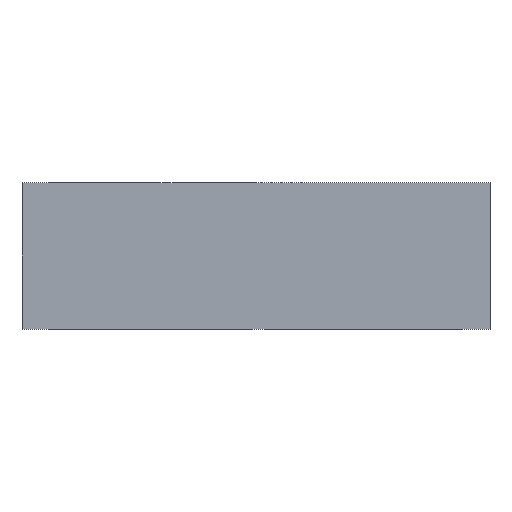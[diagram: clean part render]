
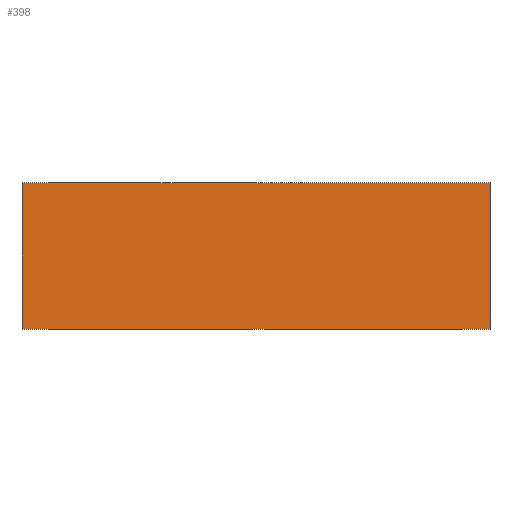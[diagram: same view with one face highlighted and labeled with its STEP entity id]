
A CAD part, front view. The second image highlights one B-rep face of the part: STEP entity #398.
In plain terms, the highlighted planar face has unit normal (0, -1, 0).
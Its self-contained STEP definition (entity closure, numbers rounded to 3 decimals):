
#8 = EDGE_CURVE ( 'NONE', #654, #672, #262, .T. ) ;
#17 = EDGE_CURVE ( 'NONE', #672, #610, #248, .T. ) ;
#37 = EDGE_CURVE ( 'NONE', #645, #610, #215, .T. ) ;
#62 = AXIS2_PLACEMENT_3D ( 'NONE', #528, #521, #520 ) ;
#68 = EDGE_CURVE ( 'NONE', #654, #645, #166, .T. ) ;
#133 = FACE_OUTER_BOUND ( 'NONE', #275, .T. ) ;
#165 = VECTOR ( 'NONE', #596, 1000. ) ;
#166 = LINE ( 'NONE', #597, #165 ) ;
#214 = VECTOR ( 'NONE', #668, 1000. ) ;
#215 = LINE ( 'NONE', #670, #214 ) ;
#239 = VECTOR ( 'NONE', #705, 1000. ) ;
#248 = LINE ( 'NONE', #480, #239 ) ;
#253 = VECTOR ( 'NONE', #522, 1000. ) ;
#262 = LINE ( 'NONE', #539, #253 ) ;
#275 = EDGE_LOOP ( 'NONE', ( #319, #320, #321, #322 ) ) ;
#319 = ORIENTED_EDGE ( 'NONE', *, *, #37, .T. ) ;
#320 = ORIENTED_EDGE ( 'NONE', *, *, #17, .F. ) ;
#321 = ORIENTED_EDGE ( 'NONE', *, *, #8, .F. ) ;
#322 = ORIENTED_EDGE ( 'NONE', *, *, #68, .T. ) ;
#398 = ADVANCED_FACE ( 'NONE', ( #133 ), #532, .F. ) ;
#451 = CARTESIAN_POINT ( 'NONE',  ( 104., 0., 65. ) ) ;
#457 = CARTESIAN_POINT ( 'NONE',  ( -104., 0., 65. ) ) ;
#460 = CARTESIAN_POINT ( 'NONE',  ( -104., 0., 0. ) ) ;
#470 = CARTESIAN_POINT ( 'NONE',  ( 104., 0., 0. ) ) ;
#480 = CARTESIAN_POINT ( 'NONE',  ( 104., 0., 65. ) ) ;
#520 = DIRECTION ( 'NONE',  ( -1., 0., 0. ) ) ;
#521 = DIRECTION ( 'NONE',  ( 0., 1., 0. ) ) ;
#522 = DIRECTION ( 'NONE',  ( 1., 0., 0. ) ) ;
#528 = CARTESIAN_POINT ( 'NONE',  ( -104., 0., 65. ) ) ;
#532 = PLANE ( 'NONE',  #62 ) ;
#539 = CARTESIAN_POINT ( 'NONE',  ( -104., 0., 65. ) ) ;
#596 = DIRECTION ( 'NONE',  ( 0., 0., -1. ) ) ;
#597 = CARTESIAN_POINT ( 'NONE',  ( -104., 0., 65. ) ) ;
#610 = VERTEX_POINT ( 'NONE', #470 ) ;
#645 = VERTEX_POINT ( 'NONE', #460 ) ;
#654 = VERTEX_POINT ( 'NONE', #457 ) ;
#668 = DIRECTION ( 'NONE',  ( 1., 0., 0. ) ) ;
#670 = CARTESIAN_POINT ( 'NONE',  ( -104., 0., 0. ) ) ;
#672 = VERTEX_POINT ( 'NONE', #451 ) ;
#705 = DIRECTION ( 'NONE',  ( 0., 0., -1. ) ) ;
